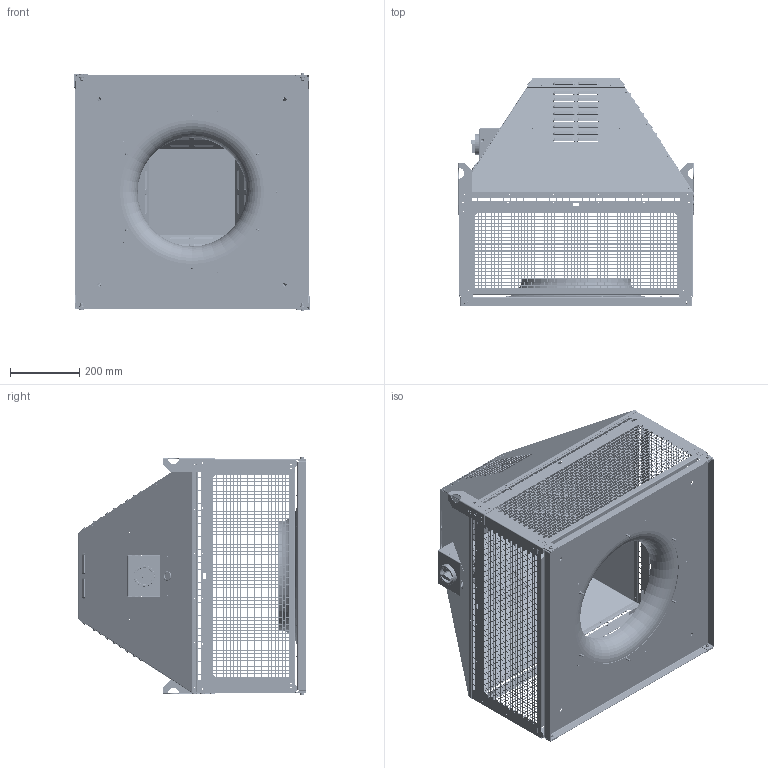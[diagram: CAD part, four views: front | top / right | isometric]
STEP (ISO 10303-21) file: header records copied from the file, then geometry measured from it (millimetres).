
FILE_DESCRIPTION (( 'STEP AP203' ), '1' );
FILE_NAME ('150547-00_DHN500D4F430_step.step', '2019-05-10T10:07:09', ( '' ), ( '' ), 'SwSTEP 2.0', 'SolidWorks 2017', '' );
FILE_SCHEMA (( 'CONFIG_CONTROL_DESIGN' ));
Products named in the file (1): 150547-00_DHN500D4F430_step
Bounding box: 682.3 x 658 x 689.3 mm (x, y, z)
Surface area: 4027812.9 mm2 (no closed solid volume)
Topology: 0 solids, 63 shells, 8023 faces, 37962 edges, 25577 vertices
Faces by surface type: plane 7384, cylinder 345, bspline 250, torus 34, cone 10
Full cylindrical faces by diameter (mm): 3.2 x24, 4.2 x77, 4.5 x54, 5.4 x4, 6 x8, 7.4 x6, 9 x4, 10 x2, 11 x4, 12 x4, 13 x8, 16 x2, 20 x2, 26 x1, 27.5 x1, 61 x1, 314 x1, 316 x1, 426.6 x1, 500 x1
Entity records: 421608 total; most frequent: CARTESIAN_POINT 121725, ORIENTED_EDGE 56204, DIRECTION 52992, EDGE_CURVE 37601, LINE 35552, VECTOR 35552, VERTEX_POINT 25577, EDGE_LOOP 14724
